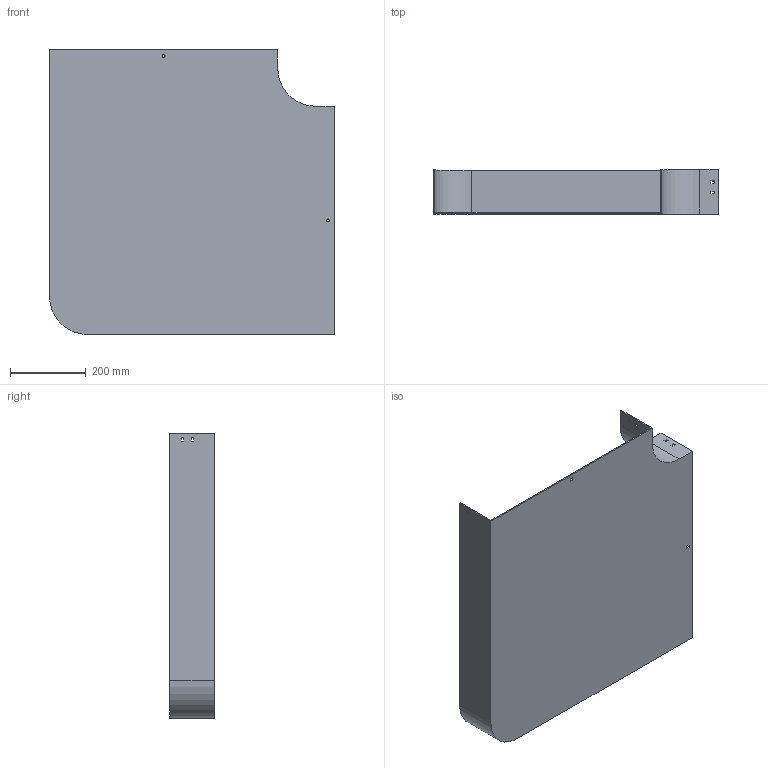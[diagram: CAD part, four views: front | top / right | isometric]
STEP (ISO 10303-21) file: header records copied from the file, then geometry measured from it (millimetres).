
FILE_DESCRIPTION (( 'STEP AP214' ), '1' );
FILE_NAME ('10B1J600.step', '2025-02-21T09:40:16', ( '' ), ( '' ), 'SwSTEP 2.0', 'SolidWorks 2023', '' );
FILE_SCHEMA (( 'AUTOMOTIVE_DESIGN' ));
Length unit declared in the file: millimetre
Products named in the file (1): 10B1J600
Bounding box: 754 x 117.5 x 754 mm (x, y, z)
Volume: 2595828 mm3; surface area: 1496350.9 mm2
Topology: 1 solids, 1 shells, 58 faces, 168 edges, 112 vertices
Faces by surface type: plane 54, cylinder 4
Entity records: 1943 total; most frequent: CARTESIAN_POINT 339, ORIENTED_EDGE 336, DIRECTION 294, EDGE_CURVE 168, VECTOR 160, LINE 160, VERTEX_POINT 112, EDGE_LOOP 78
